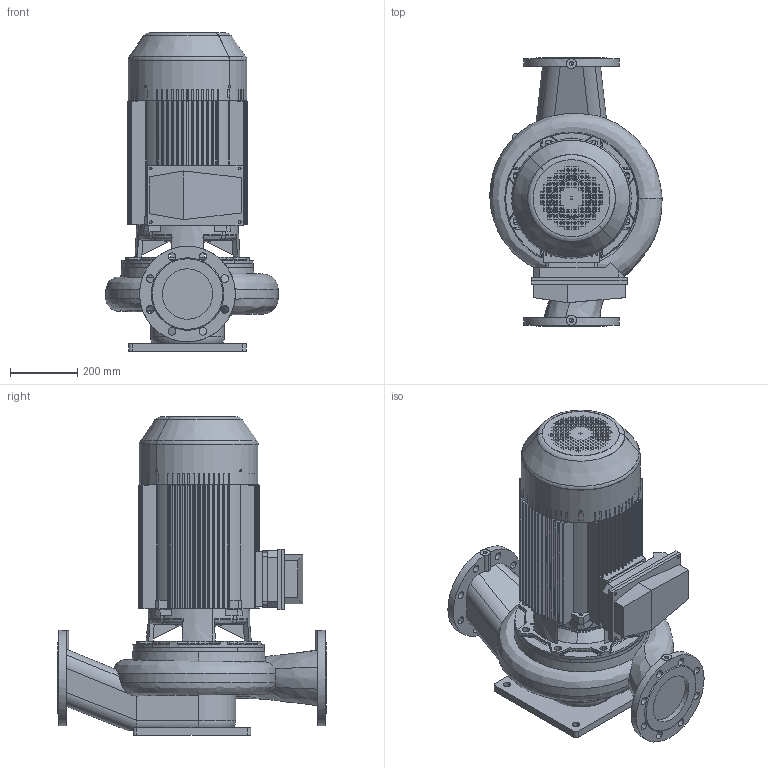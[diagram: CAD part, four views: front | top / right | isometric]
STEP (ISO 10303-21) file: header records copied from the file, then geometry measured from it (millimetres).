
FILE_DESCRIPTION(('STEP AP214'),'1');
FILE_NAME('export.stp','2018-05-28T12:08:47',(' '),(' '),'Spatial InterOp 3D',' ',' ');
FILE_SCHEMA(('AUTOMOTIVE_DESIGN { 1 0 10303 214 1 1 1 1 }'));
Length unit declared in the file: millimetre
Products named in the file (12): W_ALP11534220KP18; V_TLL100SAL1202; V_PPALP1153; PPALP1153_Kesken; Tukijalka_ALP1128; V_MKP187-K2-BF32; R201280; R200132; R200136; R200138; R200137; R201121
Assembly tree (11 placements, depth 3):
  W_ALP11534220KP18
    V_TLL100SAL1202
    V_PPALP1153
      PPALP1153_Kesken
      Tukijalka_ALP1128
    V_MKP187-K2-BF32
      R201280
      R200132
      R200136
      R200138
      R200137
      R201121
Bounding box: 512.98 x 800 x 947.5 mm (x, y, z)
Volume: 55302335.9 mm3; surface area: 5241005.1 mm2
Topology: 9 solids, 9 shells, 2176 faces, 6359 edges, 4210 vertices
Faces by surface type: plane 1227, cylinder 793, torus 65, cone 58, bspline 22, sphere 11
Entity records: 111271 total; most frequent: CARTESIAN_POINT 17942, ORIENTED_EDGE 12688, DIRECTION 12225, EDGE_CURVE 6344, STYLED_ITEM 5338, PRESENTATION_STYLE_ASSIGNMENT 5338, COLOUR_RGB 5338, LINE 4223
